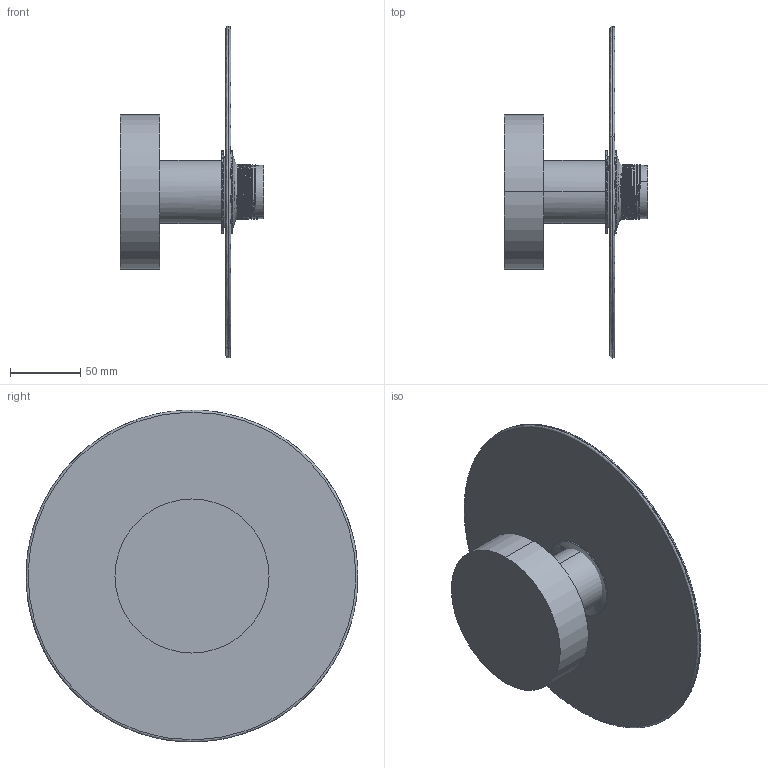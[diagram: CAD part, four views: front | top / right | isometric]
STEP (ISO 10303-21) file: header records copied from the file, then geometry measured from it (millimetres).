
FILE_DESCRIPTION (( 'STEP AP214' ), '1' );
FILE_NAME ('A1223.STEP', '2026-06-09T10:22:18', ( '' ), ( '' ), 'SwSTEP 2.0', 'SolidWorks 2023', '' );
FILE_SCHEMA (( 'AUTOMOTIVE_DESIGN' ));
Length unit declared in the file: inch
Products named in the file (1): A1223
Bounding box: 102.76 x 237 x 236.97 mm (x, y, z)
Volume: 467807.4 mm3; surface area: 154660 mm2
Topology: 4 solids, 4 shells, 209 faces, 566 edges, 367 vertices
Faces by surface type: bspline 203, plane 4, cylinder 2
Entity records: 28503 total; most frequent: CARTESIAN_POINT 25235, ORIENTED_EDGE 1132, EDGE_CURVE 566, B_SPLINE_CURVE_WITH_KNOTS 368, VERTEX_POINT 367, EDGE_LOOP 221, ADVANCED_FACE 209, FACE_OUTER_BOUND 209
